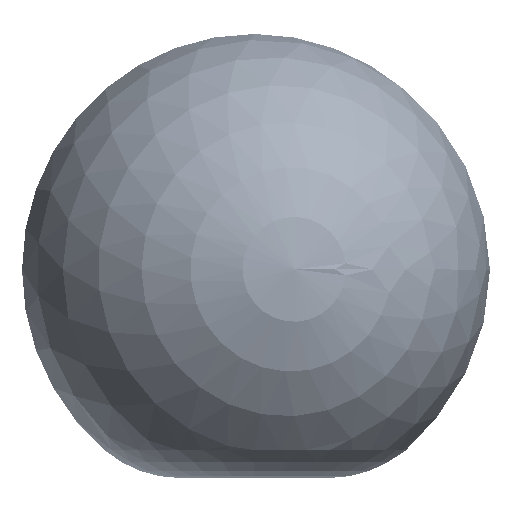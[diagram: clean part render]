
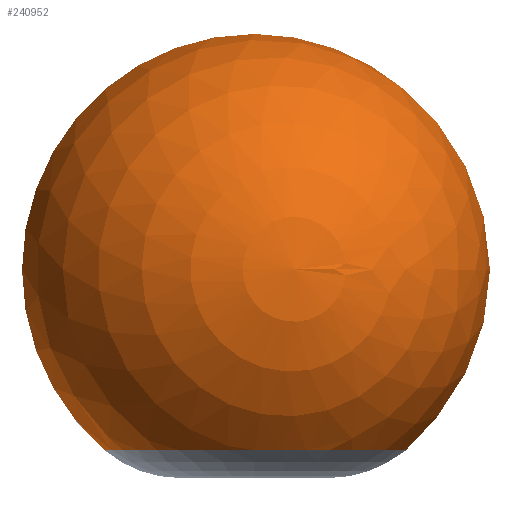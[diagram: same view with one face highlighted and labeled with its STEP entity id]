
A CAD part, top view. The second image highlights one B-rep face of the part: STEP entity #240952.
In plain terms, the highlighted spherical face has radius 1200 mm.
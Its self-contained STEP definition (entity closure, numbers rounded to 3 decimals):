
#901 = FACE_OUTER_BOUND ( 'NONE', #204747, .T. ) ;
#21555 = SPHERICAL_SURFACE ( 'NONE', #289007, 1200. ) ;
#32335 = CARTESIAN_POINT ( 'NONE',  ( 759.627, -919.253, -133.943 ) ) ;
#45528 = DIRECTION ( 'NONE',  ( 0., 0., 1. ) ) ;
#63514 = EDGE_CURVE ( 'NONE', #212090, #214302, #99981, .T. ) ;
#68054 = DIRECTION ( 'NONE',  ( -0.174, 0., -0.985 ) ) ;
#80217 = DIRECTION ( 'NONE',  ( -0.985, 0., 0.174 ) ) ;
#90134 = DIRECTION ( 'NONE',  ( -0.174, 0., -0.985 ) ) ;
#99981 = CIRCLE ( 'NONE', #309014, 771.345 ) ;
#149278 = EDGE_CURVE ( 'NONE', #381277, #212090, #388903, .T. ) ;
#163302 = CARTESIAN_POINT ( 'NONE',  ( 0., 1200., 0. ) ) ;
#174598 = CARTESIAN_POINT ( 'NONE',  ( 0., 0., 0. ) ) ;
#176336 = DIRECTION ( 'NONE',  ( 0., 1., 0. ) ) ;
#179125 = ORIENTED_EDGE ( 'NONE', *, *, #278140, .T. ) ;
#187276 = DIRECTION ( 'NONE',  ( -0.985, 0., 0.174 ) ) ;
#190333 = DIRECTION ( 'NONE',  ( 0., 1., 0. ) ) ;
#191728 = CARTESIAN_POINT ( 'NONE',  ( 0., -919.253, 0. ) ) ;
#204747 = EDGE_LOOP ( 'NONE', ( #320762, #353849, #381829, #179125 ) ) ;
#212038 = EDGE_CURVE ( 'NONE', #214302, #229137, #360726, .T. ) ;
#212090 = VERTEX_POINT ( 'NONE', #232688 ) ;
#214302 = VERTEX_POINT ( 'NONE', #287421 ) ;
#222829 = CIRCLE ( 'NONE', #378039, 1200. ) ;
#222973 = DIRECTION ( 'NONE',  ( -0.985, 0., 0.174 ) ) ;
#229137 = VERTEX_POINT ( 'NONE', #163302 ) ;
#232688 = CARTESIAN_POINT ( 'NONE',  ( 0., -919.253, -771.345 ) ) ;
#240952 = ADVANCED_FACE ( 'NONE', ( #901 ), #21555, .T. ) ;
#241307 = AXIS2_PLACEMENT_3D ( 'NONE', #191728, #190333, #322836 ) ;
#278140 = EDGE_CURVE ( 'NONE', #229137, #381277, #222829, .T. ) ;
#287421 = CARTESIAN_POINT ( 'NONE',  ( -759.627, -919.253, 133.943 ) ) ;
#289007 = AXIS2_PLACEMENT_3D ( 'NONE', #174598, #404268, #80217 ) ;
#309014 = AXIS2_PLACEMENT_3D ( 'NONE', #403224, #176336, #45528 ) ;
#320762 = ORIENTED_EDGE ( 'NONE', *, *, #149278, .T. ) ;
#322836 = DIRECTION ( 'NONE',  ( 0., 0., 1. ) ) ;
#353849 = ORIENTED_EDGE ( 'NONE', *, *, #63514, .T. ) ;
#353976 = AXIS2_PLACEMENT_3D ( 'NONE', #354107, #68054, #222973 ) ;
#354107 = CARTESIAN_POINT ( 'NONE',  ( 0., 0., 0. ) ) ;
#360726 = CIRCLE ( 'NONE', #353976, 1200. ) ;
#378039 = AXIS2_PLACEMENT_3D ( 'NONE', #411468, #90134, #187276 ) ;
#381277 = VERTEX_POINT ( 'NONE', #32335 ) ;
#381829 = ORIENTED_EDGE ( 'NONE', *, *, #212038, .T. ) ;
#388903 = CIRCLE ( 'NONE', #241307, 771.345 ) ;
#403224 = CARTESIAN_POINT ( 'NONE',  ( 0., -919.253, 0. ) ) ;
#404268 = DIRECTION ( 'NONE',  ( 0.174, 0., 0.985 ) ) ;
#411468 = CARTESIAN_POINT ( 'NONE',  ( 0., 0., 0. ) ) ;
